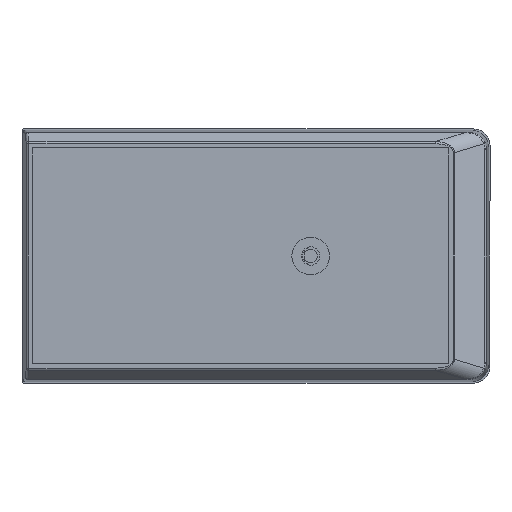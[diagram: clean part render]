
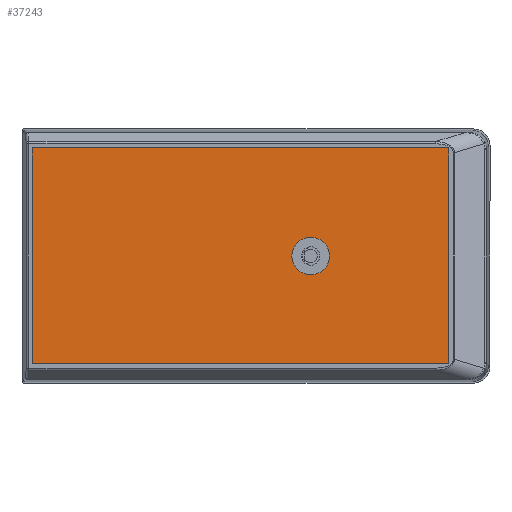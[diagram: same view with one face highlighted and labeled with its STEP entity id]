
A CAD part, front view. The second image highlights one B-rep face of the part: STEP entity #37243.
In plain terms, the highlighted planar face has unit normal (0, -1, 0).
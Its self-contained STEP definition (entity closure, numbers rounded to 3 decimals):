
#1394 = VECTOR ( 'NONE', #23267, 1000. ) ;
#7376 = CIRCLE ( 'NONE', #98853, 3.442 ) ;
#8591 = DIRECTION ( 'NONE',  ( 0., -1., 0. ) ) ;
#10480 = FACE_BOUND ( 'NONE', #47771, .T. ) ;
#17974 = LINE ( 'NONE', #79042, #98259 ) ;
#18604 = ORIENTED_EDGE ( 'NONE', *, *, #66004, .T. ) ;
#20370 = ORIENTED_EDGE ( 'NONE', *, *, #58376, .T. ) ;
#20631 = ORIENTED_EDGE ( 'NONE', *, *, #40664, .T. ) ;
#22292 = LINE ( 'NONE', #92630, #1394 ) ;
#22499 = CARTESIAN_POINT ( 'NONE',  ( 35.305, -9.652, 19.761 ) ) ;
#22936 = AXIS2_PLACEMENT_3D ( 'NONE', #47471, #8591, #63096 ) ;
#23267 = DIRECTION ( 'NONE',  ( 1., 0., 0. ) ) ;
#23792 = CARTESIAN_POINT ( 'NONE',  ( 10.008, -9.652, 0. ) ) ;
#25758 = EDGE_CURVE ( 'NONE', #43319, #56814, #86720, .T. ) ;
#30131 = DIRECTION ( 'NONE',  ( 0., 1., 0. ) ) ;
#30967 = LINE ( 'NONE', #95738, #90531 ) ;
#31457 = VERTEX_POINT ( 'NONE', #74771 ) ;
#31671 = DIRECTION ( 'NONE',  ( 0., 0., -1. ) ) ;
#31849 = PLANE ( 'NONE',  #22936 ) ;
#34695 = ORIENTED_EDGE ( 'NONE', *, *, #55679, .T. ) ;
#37243 = ADVANCED_FACE ( 'NONE', ( #47079, #10480 ), #31849, .T. ) ;
#40664 = EDGE_CURVE ( 'NONE', #31457, #50542, #22292, .T. ) ;
#43319 = VERTEX_POINT ( 'NONE', #90894 ) ;
#44339 = CARTESIAN_POINT ( 'NONE',  ( 10.008, -9.652, -3.442 ) ) ;
#45377 = VECTOR ( 'NONE', #69111, 1000. ) ;
#47079 = FACE_OUTER_BOUND ( 'NONE', #98748, .T. ) ;
#47471 = CARTESIAN_POINT ( 'NONE',  ( -40.895, -9.652, -19.736 ) ) ;
#47771 = EDGE_LOOP ( 'NONE', ( #18604, #47809 ) ) ;
#47809 = ORIENTED_EDGE ( 'NONE', *, *, #73957, .T. ) ;
#48075 = DIRECTION ( 'NONE',  ( 0., 0., -1. ) ) ;
#50542 = VERTEX_POINT ( 'NONE', #70276 ) ;
#52256 = AXIS2_PLACEMENT_3D ( 'NONE', #23792, #78246, #31671 ) ;
#55297 = VERTEX_POINT ( 'NONE', #97857 ) ;
#55679 = EDGE_CURVE ( 'NONE', #50542, #43319, #30967, .T. ) ;
#56814 = VERTEX_POINT ( 'NONE', #73883 ) ;
#58376 = EDGE_CURVE ( 'NONE', #56814, #31457, #17974, .T. ) ;
#63096 = DIRECTION ( 'NONE',  ( 0., 0., -1. ) ) ;
#66004 = EDGE_CURVE ( 'NONE', #90428, #55297, #7376, .T. ) ;
#69111 = DIRECTION ( 'NONE',  ( -1., 0., 0. ) ) ;
#70276 = CARTESIAN_POINT ( 'NONE',  ( 35.305, -9.652, -19.736 ) ) ;
#71380 = ORIENTED_EDGE ( 'NONE', *, *, #25758, .T. ) ;
#72376 = DIRECTION ( 'NONE',  ( 0., 0., 1. ) ) ;
#73883 = CARTESIAN_POINT ( 'NONE',  ( -40.895, -9.652, 19.761 ) ) ;
#73957 = EDGE_CURVE ( 'NONE', #55297, #90428, #87670, .T. ) ;
#74771 = CARTESIAN_POINT ( 'NONE',  ( -40.895, -9.652, -19.736 ) ) ;
#76750 = CARTESIAN_POINT ( 'NONE',  ( 10.008, -9.652, 0. ) ) ;
#78246 = DIRECTION ( 'NONE',  ( 0., 1., 0. ) ) ;
#79042 = CARTESIAN_POINT ( 'NONE',  ( -40.895, -9.652, 19.761 ) ) ;
#84525 = DIRECTION ( 'NONE',  ( 0., 0., -1. ) ) ;
#86720 = LINE ( 'NONE', #22499, #45377 ) ;
#87670 = CIRCLE ( 'NONE', #52256, 3.442 ) ;
#90428 = VERTEX_POINT ( 'NONE', #44339 ) ;
#90531 = VECTOR ( 'NONE', #72376, 1000. ) ;
#90894 = CARTESIAN_POINT ( 'NONE',  ( 35.305, -9.652, 19.761 ) ) ;
#92630 = CARTESIAN_POINT ( 'NONE',  ( 35.305, -9.652, -19.736 ) ) ;
#95738 = CARTESIAN_POINT ( 'NONE',  ( 35.305, -9.652, 19.761 ) ) ;
#97857 = CARTESIAN_POINT ( 'NONE',  ( 10.008, -9.652, 3.442 ) ) ;
#98259 = VECTOR ( 'NONE', #48075, 1000. ) ;
#98748 = EDGE_LOOP ( 'NONE', ( #20631, #34695, #71380, #20370 ) ) ;
#98853 = AXIS2_PLACEMENT_3D ( 'NONE', #76750, #30131, #84525 ) ;
